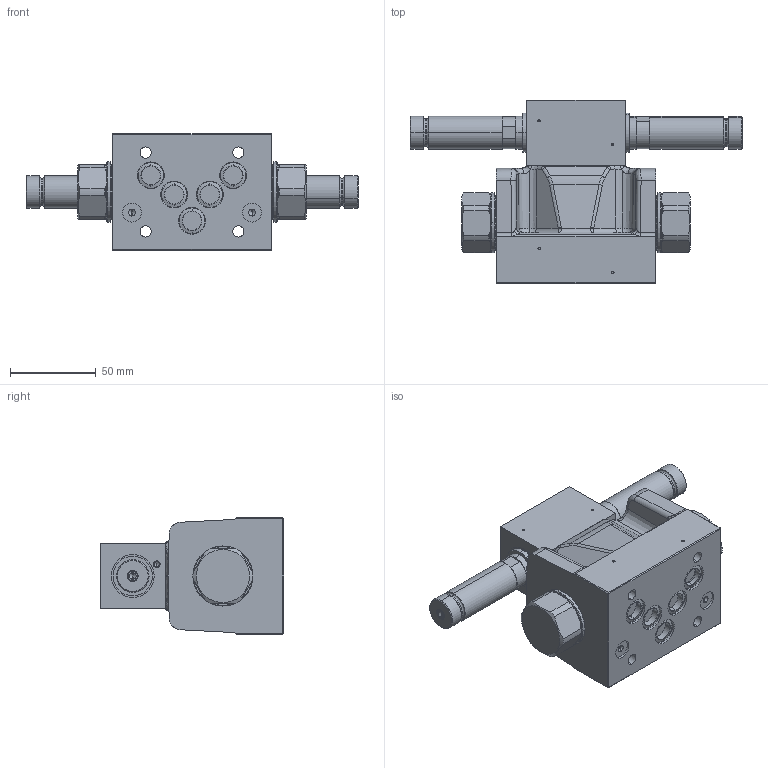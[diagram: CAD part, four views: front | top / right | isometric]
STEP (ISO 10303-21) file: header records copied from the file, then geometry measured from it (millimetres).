
FILE_DESCRIPTION (( 'STEP AP214' ), '1' );
FILE_NAME ('WVMFA10-4_3-ae_ti_xi_xe.STEP', '2017-06-15T07:23:39', ( '' ), ( '' ), 'SwSTEP 2.0', 'SolidWorks 2016', '' );
FILE_SCHEMA (( 'AUTOMOTIVE_DESIGN' ));
Length unit declared in the file: millimetre
Products named in the file (1): WVMFA10-4_3-ae_ti_xi_xe
Bounding box: 193.6 x 107.1 x 68 mm (x, y, z)
Volume: 506845.8 mm3; surface area: 72338.3 mm2
Topology: 4 solids, 6 shells, 1475 faces, 3865 edges, 2464 vertices
Faces by surface type: plane 651, cylinder 505, bspline 134, cone 110, torus 75
Entity records: 67457 total; most frequent: CARTESIAN_POINT 15501, ORIENTED_EDGE 7662, DIRECTION 7289, EDGE_CURVE 3831, AXIS2_PLACEMENT_3D 2617, VERTEX_POINT 2464, VECTOR 2055, LINE 2055
